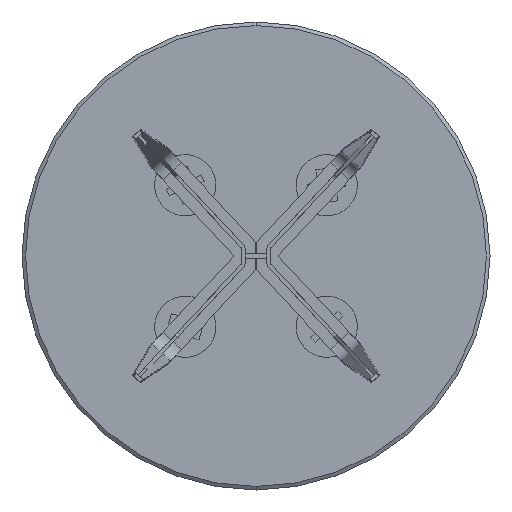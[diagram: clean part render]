
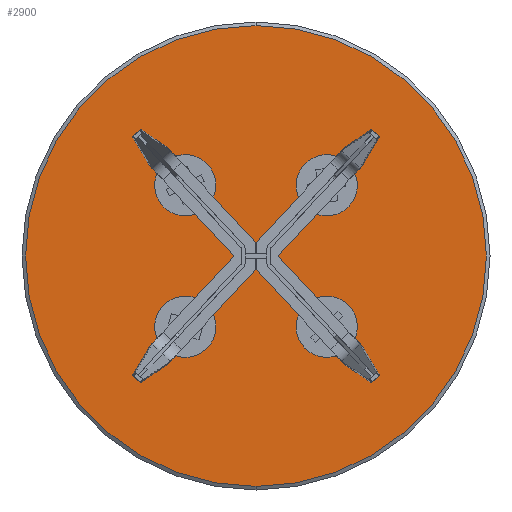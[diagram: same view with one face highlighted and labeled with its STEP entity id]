
A CAD part, front view. The second image highlights one B-rep face of the part: STEP entity #2900.
In plain terms, the highlighted planar face has unit normal (0, -1, 0) as drawn and (0, 0, -1) by its records, which use the part's own axes.
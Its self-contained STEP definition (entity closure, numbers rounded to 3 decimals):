
#432 = FACE_OUTER_BOUND ( 'NONE', #4739, .T. ) ;
#2900 = ADVANCED_FACE ( 'NONE', ( #432 ), #6629, .F. ) ;
#3581 = EDGE_CURVE ( 'NONE', #6197, #14327, #19565, .T. ) ;
#4739 = EDGE_LOOP ( 'NONE', ( #7935, #18340 ) ) ;
#6197 = VERTEX_POINT ( 'NONE', #19070 ) ;
#6629 = PLANE ( 'NONE',  #19359 ) ;
#6735 = DIRECTION ( 'NONE',  ( 0., 0., 1. ) ) ;
#7658 = CIRCLE ( 'NONE', #14161, 640.003 ) ;
#7935 = ORIENTED_EDGE ( 'NONE', *, *, #15139, .T. ) ;
#8355 = DIRECTION ( 'NONE',  ( 1., 0., 0. ) ) ;
#9136 = CARTESIAN_POINT ( 'NONE',  ( 0., 0., 0. ) ) ;
#11054 = DIRECTION ( 'NONE',  ( 0., 0., -1. ) ) ;
#11074 = CARTESIAN_POINT ( 'NONE',  ( 0., 0., 0. ) ) ;
#12917 = DIRECTION ( 'NONE',  ( 0., 0., -1. ) ) ;
#14161 = AXIS2_PLACEMENT_3D ( 'NONE', #11074, #12917, #8355 ) ;
#14327 = VERTEX_POINT ( 'NONE', #17535 ) ;
#14673 = AXIS2_PLACEMENT_3D ( 'NONE', #9136, #11054, #16948 ) ;
#15139 = EDGE_CURVE ( 'NONE', #14327, #6197, #7658, .T. ) ;
#16948 = DIRECTION ( 'NONE',  ( 1., 0., 0. ) ) ;
#17535 = CARTESIAN_POINT ( 'NONE',  ( 640.003, 0., 0. ) ) ;
#18340 = ORIENTED_EDGE ( 'NONE', *, *, #3581, .T. ) ;
#19063 = CARTESIAN_POINT ( 'NONE',  ( 0., 0., 0. ) ) ;
#19070 = CARTESIAN_POINT ( 'NONE',  ( -640.003, 0., 0. ) ) ;
#19169 = DIRECTION ( 'NONE',  ( 1., 0., 0. ) ) ;
#19359 = AXIS2_PLACEMENT_3D ( 'NONE', #19063, #6735, #19169 ) ;
#19565 = CIRCLE ( 'NONE', #14673, 640.003 ) ;
